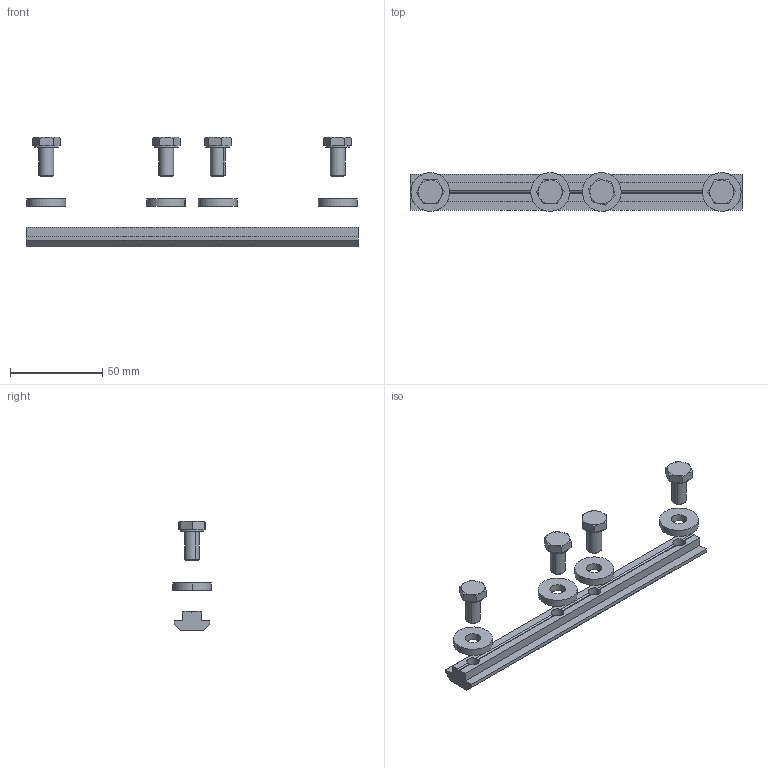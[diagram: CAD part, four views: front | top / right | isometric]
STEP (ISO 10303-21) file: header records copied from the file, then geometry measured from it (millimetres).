
FILE_DESCRIPTION (( 'STEP AP203' ), '1' );
FILE_NAME ('344011_Profilverbinder Nut 10.step', '2022-03-14T11:02:20', ( '' ), ( '' ), 'SwSTEP 2.0', 'SolidWorks 2021', '' );
FILE_SCHEMA (( 'CONFIG_CONTROL_DESIGN' ));
Length unit declared in the file: millimetre
Products named in the file (4): 344011_Profilverbinder Nut 10; hex screw gradeab_din_ISO 4017 - M8 x 16-C; plain washer 7349 heavy_din_DIN 7349-8.4-St; 999513 Profilverbinder Nut 10
Assembly tree (9 placements, depth 2):
  344011_Profilverbinder Nut 10
    999513 Profilverbinder Nut 10
    plain washer 7349 heavy_din_DIN 7349-8.4-St  x4
    hex screw gradeab_din_ISO 4017 - M8 x 16-C  x4
Bounding box: 180 x 21 x 59.39 mm (x, y, z)
Volume: 35479.8 mm3; surface area: 18432.1 mm2
Topology: 9 solids, 9 shells, 171 faces, 379 edges, 226 vertices
Faces by surface type: plane 91, cylinder 40, cone 32, torus 8
Entity records: 2597 total; most frequent: CARTESIAN_POINT 457, DIRECTION 339, ORIENTED_EDGE 326, EDGE_CURVE 163, AXIS2_PLACEMENT_3D 126, VERTEX_POINT 100, VECTOR 87, LINE 87
